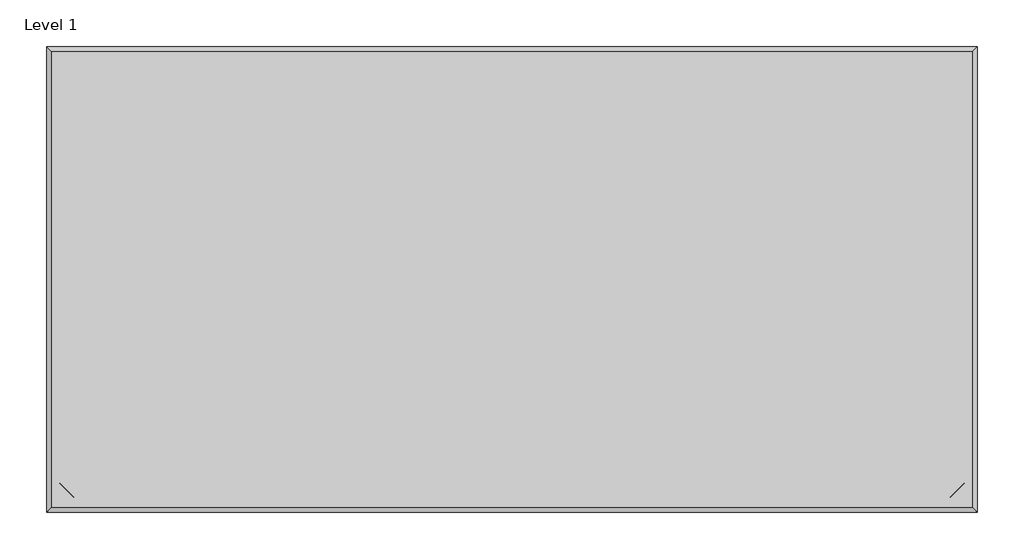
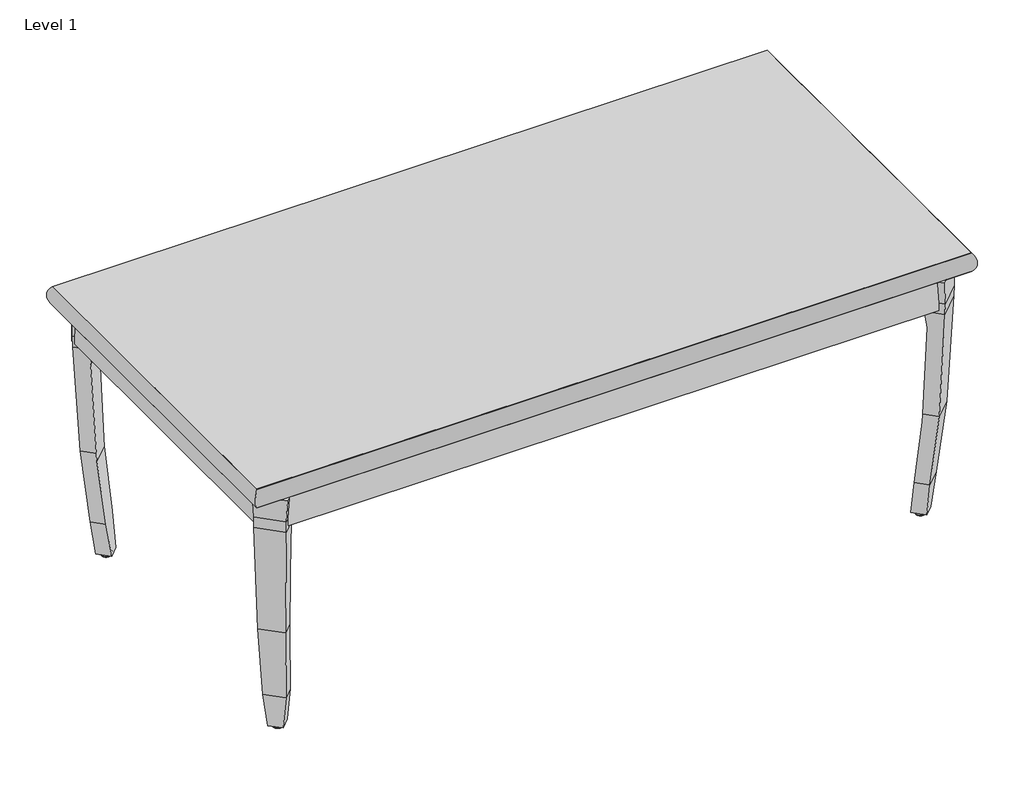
# One storey: 1 furniture element.
"""IFC4 building model written with IfcOpenShell, lengths in millimetres."""

from ifc_helpers import new_model, si_unit, origin, place, context, project, spatial, transform, mapped, element, save
from components import family3_family3_a00ddc4d

model = new_model("IFC4")

# Units and contexts
model_context = context("Model", 3, world=origin())
ifc_project = project(units=[si_unit("LENGTHUNIT", "METRE", prefix="MILLI")], contexts=[model_context])

# Site, building, storey
site = spatial("IfcSite", under=ifc_project)
building = spatial("IfcBuilding", under=site)
storey = spatial("IfcBuildingStorey", under=building, Name="Level 1", Elevation=0.0)

# Furniture
placement = place(None, origin())
family3_family3_shape = family3_family3_a00ddc4d(model_context)
element("IfcFurniture", 1, ObjectType="Family3 : Family3", at=placement, inside=storey, context=model_context, shape_type="MappedRepresentation", body=[
    mapped(family3_family3_shape, transform((-220.0266578, 74.5553719, 0.0), x_axis=(1.0, 0.0, 0.0), y_axis=(0.0, 1.0, 0.0), z_axis=(0.0, 0.0, 1.0))),
])

save(model, "model.ifc")
